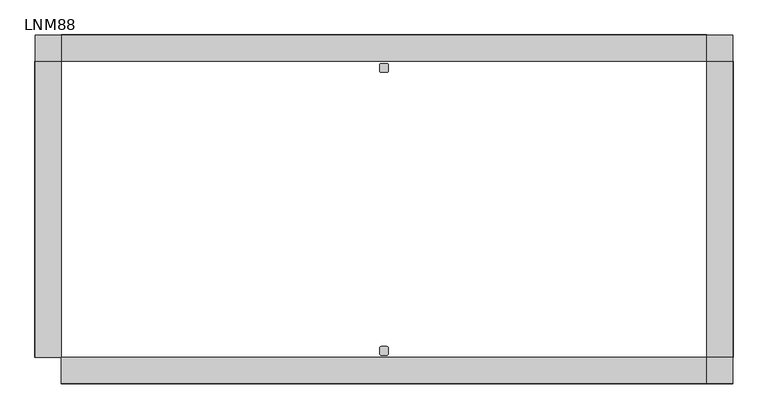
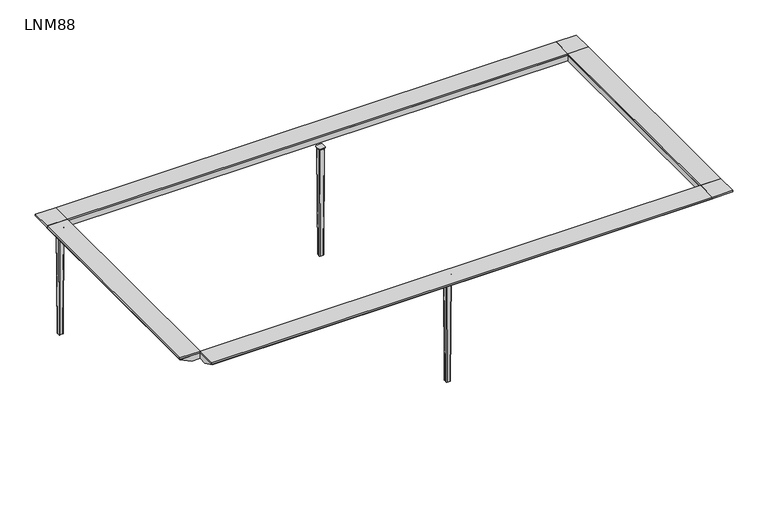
"""IFC4 building model written with IfcOpenShell, lengths in millimetres: furniture geometry, Operative Twin Desks : LNM88."""

from ifc_helpers import new_model, si_unit, point, frame, origin, place, context, project, spatial, polyline, circle_curve, ellipse_curve, trimmed, outline, extrude, faceted_brep, source, transform, mapped, element, save
from ifc_brep_helpers import plane_surface, cylinder_surface, revolved_surface, extruded_surface, advanced_brep


def lnm88_35c4ff98(model_context):
    return source(origin(), model_context, "Body", "SolidModel", [
        advanced_brep(
        [(12.0, -630.0, 675.0), (-12.0, -630.0, 675.0), (-20.0, -638.0, 675.0), (-20.0, -662.0, 675.0), (-12.0, -670.0, 675.0), (12.0, -670.0, 675.0), (20.0, -662.0, 675.0), (20.0, -638.0, 675.0), (15.0, -662.0, 665.0), (12.0, -665.0, 665.0), (-12.0, -665.0, 665.0), (-15.0, -662.0, 665.0), (-15.0, -638.0, 665.0), (-12.0, -635.0, 665.0), (12.0, -635.0, 665.0), (15.0, -638.0, 665.0), (12.0, -630.0, 672.0), (-12.0, -630.0, 672.0), (-20.0, -638.0, 672.0), (-20.0, -662.0, 672.0), (-12.0, -670.0, 672.0), (12.0, -670.0, 672.0), (20.0, -662.0, 672.0), (20.0, -638.0, 672.0)],
        [
            (0, 1),
            (1, 2, circle_curve(frame((-12.0, -638.0, 675.0), z_axis=(0.0, 0.0, 1.0), x_axis=(1.0, 0.0, 0.0)), 8.0)),
            (2, 3),
            (3, 4, circle_curve(frame((-12.0, -662.0, 675.0), z_axis=(0.0, 0.0, 1.0), x_axis=(1.0, 0.0, 0.0)), 8.0)),
            (4, 5),
            (5, 6, circle_curve(frame((12.0, -662.0, 675.0), z_axis=(0.0, 0.0, 1.0), x_axis=(1.0, 0.0, 0.0)), 8.0)),
            (6, 7),
            (7, 0, circle_curve(frame((12.0, -638.0, 675.0), z_axis=(0.0, 0.0, 1.0), x_axis=(1.0, 0.0, 0.0)), 8.0)),
            (8, 9, circle_curve(frame((12.0, -662.0, 665.0), z_axis=(0.0, 0.0, -1.0), x_axis=(1.0, 0.0, 0.0)), 3.0)),
            (9, 10),
            (10, 11, circle_curve(frame((-12.0, -662.0, 665.0), z_axis=(0.0, 0.0, -1.0), x_axis=(0.0, -1.0, 0.0)), 3.0)),
            (11, 12),
            (12, 13, circle_curve(frame((-12.0, -638.0, 665.0), z_axis=(0.0, 0.0, -1.0), x_axis=(-1.0, 0.0, 0.0)), 3.0)),
            (13, 14),
            (14, 15, circle_curve(frame((12.0, -638.0, 665.0), z_axis=(0.0, 0.0, -1.0), x_axis=(0.0, 1.0, 0.0)), 3.0)),
            (15, 8),
            (0, 16),
            (16, 17),
            (17, 1),
            (17, 18, circle_curve(frame((-12.0, -638.0, 672.0), z_axis=(0.0, 0.0, 1.0), x_axis=(1.0, 0.0, 0.0)), 8.0)),
            (18, 2),
            (18, 19),
            (19, 3),
            (19, 20, circle_curve(frame((-12.0, -662.0, 672.0), z_axis=(0.0, 0.0, 1.0), x_axis=(1.0, 0.0, 0.0)), 8.0)),
            (20, 4),
            (20, 21),
            (21, 5),
            (21, 22, circle_curve(frame((12.0, -662.0, 672.0), z_axis=(0.0, 0.0, 1.0), x_axis=(1.0, 0.0, 0.0)), 8.0)),
            (22, 6),
            (22, 23),
            (23, 7),
            (23, 16, circle_curve(frame((12.0, -638.0, 672.0), z_axis=(0.0, 0.0, 1.0), x_axis=(1.0, 0.0, 0.0)), 8.0)),
            (21, 9, circle_curve(frame((12.0, -673.9600528, 663.8856766), z_axis=(-1.0, 0.0, 0.0), x_axis=(0.0, -1.0, 0.0)), 9.0290787)),
            (8, 22, circle_curve(frame((23.9600528, -662.0, 663.8856766), z_axis=(0.0, 1.0, 0.0), x_axis=(1.0, 0.0, 0.0)), 9.0290787)),
            (20, 10, circle_curve(frame((-12.0, -673.9600528, 663.8856766), z_axis=(-1.0, 0.0, 0.0), x_axis=(0.0, -1.0, 0.0)), 9.0290787)),
            (19, 11, circle_curve(frame((-23.9600528, -662.0, 663.8856766), z_axis=(0.0, 1.0, 0.0), x_axis=(-1.0, 0.0, 0.0)), 9.0290787)),
            (18, 12, circle_curve(frame((-23.9600528, -638.0, 663.8856766), z_axis=(0.0, 1.0, 0.0), x_axis=(-1.0, 0.0, 0.0)), 9.0290787)),
            (17, 13, circle_curve(frame((-12.0, -626.0399472, 663.8856766), z_axis=(1.0, 0.0, 0.0), x_axis=(0.0, 1.0, 0.0)), 9.0290787)),
            (16, 14, circle_curve(frame((12.0, -626.0399472, 663.8856766), z_axis=(1.0, 0.0, 0.0), x_axis=(0.0, 1.0, 0.0)), 9.0290787)),
            (23, 15, circle_curve(frame((23.9600528, -638.0, 663.8856766), z_axis=(0.0, -1.0, 0.0), x_axis=(1.0, 0.0, 0.0)), 9.0290787)),
        ],
        [
            plane_surface(frame((-673.663284, -630.0, 675.0), z_axis=(0.0, 0.0, 1.0), x_axis=(-1.0, 0.0, 0.0))),
            plane_surface(frame((-673.663284, -630.0, 665.0), z_axis=(0.0, 0.0, -1.0), x_axis=(1.0, 0.0, 0.0))),
            plane_surface(frame((12.0, -630.0, 675.0), z_axis=(0.0, 1.0, 0.0), x_axis=(0.0, 0.0, -1.0))),
            cylinder_surface(frame((-12.0, -638.0, 665.0), z_axis=(0.0, 0.0, 1.0), x_axis=(1.0, 0.0, 0.0)), 8.0),
            plane_surface(frame((-20.0, -638.0, 675.0), z_axis=(-1.0, 0.0, 0.0), x_axis=(0.0, 0.0, -1.0))),
            cylinder_surface(frame((-12.0, -662.0, 665.0), z_axis=(0.0, 0.0, 1.0), x_axis=(1.0, 0.0, 0.0)), 8.0),
            plane_surface(frame((-12.0, -670.0, 675.0), z_axis=(0.0, -1.0, 0.0), x_axis=(0.0, 0.0, -1.0))),
            cylinder_surface(frame((12.0, -662.0, 665.0), z_axis=(0.0, 0.0, 1.0), x_axis=(1.0, 0.0, 0.0)), 8.0),
            plane_surface(frame((20.0, -662.0, 675.0), z_axis=(1.0, 0.0, 0.0), x_axis=(0.0, 0.0, -1.0))),
            cylinder_surface(frame((12.0, -638.0, 665.0), z_axis=(0.0, 0.0, 1.0), x_axis=(1.0, 0.0, 0.0)), 8.0),
            revolved_surface(trimmed(ellipse_curve(frame((23.9600528, -662.0, 663.8856766), z_axis=(0.0, -1.0, 0.0), x_axis=(1.0, 0.0, 0.0)), 9.0290787, 9.0290787), [point((20.0, -662.0, 672.0))], [point((15.0, -662.0, 665.0))], True, "CARTESIAN"), (12.0, -662.0, 0.0), (0.0, 0.0, -1.0)),
            revolved_surface(polyline([(12.0, -682.9891315, 663.8856766), (-12.0, -682.9891315, 663.8856766)]), (12.0, -673.9600528, 663.8856766), (1.0, 0.0, 0.0)),
            revolved_surface(trimmed(ellipse_curve(frame((-12.0, -673.9600528, 663.8856766), z_axis=(-1.0, 0.0, 0.0), x_axis=(0.0, -1.0, 0.0)), 9.0290787, 9.0290787), [point((-12.0, -670.0, 672.0))], [point((-12.0, -665.0, 665.0))], True, "CARTESIAN"), (-12.0, -662.0, 0.0), (0.0, 0.0, -1.0)),
            revolved_surface(polyline([(-32.9891315, -662.0, 663.8856766), (-32.9891315, -638.0, 663.8856766)]), (-23.9600528, -662.0, 663.8856766), (0.0, -1.0, 0.0)),
            revolved_surface(trimmed(ellipse_curve(frame((-23.9600528, -638.0, 663.8856766), z_axis=(0.0, 1.0, 0.0), x_axis=(-1.0, 0.0, 0.0)), 9.0290787, 9.0290787), [point((-20.0, -638.0, 672.0))], [point((-15.0, -638.0, 665.0))], True, "CARTESIAN"), (-12.0, -638.0, 0.0), (0.0, 0.0, -1.0)),
            revolved_surface(polyline([(-12.0, -617.0108685, 663.8856766), (12.0, -617.0108685, 663.8856766)]), (-12.0, -626.0399472, 663.8856766), (-1.0, 0.0, 0.0)),
            revolved_surface(trimmed(ellipse_curve(frame((12.0, -626.0399472, 663.8856766), z_axis=(1.0, 0.0, 0.0), x_axis=(0.0, 1.0, 0.0)), 9.0290787, 9.0290787), [point((12.0, -630.0, 672.0))], [point((12.0, -635.0, 665.0))], True, "CARTESIAN"), (12.0, -638.0, 0.0), (0.0, 0.0, -1.0)),
            revolved_surface(polyline([(32.9891315, -638.0, 663.8856766), (32.9891315, -662.0, 663.8856766)]), (23.9600528, -638.0, 663.8856766), (0.0, 1.0, 0.0)),
        ],
        [
            (0, [[1, 2, 3, 4, 5, 6, 7, 8]]),
            (1, [[9, 10, 11, 12, 13, 14, 15, 16]]),
            (2, [[-1, 17, 18, 19]]),
            (3, [[-2, -19, 20, 21]]),
            (4, [[-3, -21, 22, 23]]),
            (5, [[-4, -23, 24, 25]]),
            (6, [[-5, -25, 26, 27]]),
            (7, [[-6, -27, 28, 29]]),
            (8, [[-7, -29, 30, 31]]),
            (9, [[-8, -31, 32, -17]]),
            (10, [[33, -9, 34, -28]]),
            (11, [[-33, -26, 35, -10]]),
            (12, [[-35, -24, 36, -11]]),
            (13, [[-36, -22, 37, -12]]),
            (14, [[-37, -20, 38, -13]]),
            (15, [[-38, -18, 39, -14]]),
            (16, [[-39, -32, 40, -15]]),
            (17, [[-34, -16, -40, -30]]),
        ],
    ),
        advanced_brep(
        [(-15.0, -662.0, 665.0), (-12.0, -665.0, 665.0), (12.0, -665.0, 665.0), (15.0, -662.0, 665.0), (15.0, -638.0, 665.0), (12.0, -635.0, 665.0), (-12.0, -635.0, 665.0), (-15.0, -638.0, 665.0), (-12.0, -659.0, 0.0), (-12.0, -641.0, 0.0), (-9.0, -638.0, 0.0), (9.0, -638.0, 0.0), (12.0, -641.0, 0.0), (12.0, -659.0, 0.0), (9.0, -662.0, 0.0), (-9.0, -662.0, 0.0)],
        [
            (0, 1, circle_curve(frame((-12.0, -662.0, 665.0), z_axis=(0.0, 0.0, 1.0), x_axis=(1.0, 0.0, 0.0)), 3.0)),
            (1, 2),
            (2, 3, circle_curve(frame((12.0, -662.0, 665.0), z_axis=(0.0, 0.0, 1.0), x_axis=(1.0, 0.0, 0.0)), 3.0)),
            (3, 4),
            (4, 5, circle_curve(frame((12.0, -638.0, 665.0), z_axis=(0.0, 0.0, 1.0), x_axis=(1.0, 0.0, 0.0)), 3.0)),
            (5, 6),
            (6, 7, circle_curve(frame((-12.0, -638.0, 665.0), z_axis=(0.0, 0.0, 1.0), x_axis=(1.0, 0.0, 0.0)), 3.0)),
            (7, 0),
            (8, 9),
            (9, 10, circle_curve(frame((-9.0, -641.0, 0.0), z_axis=(0.0, 0.0, -1.0), x_axis=(1.0, 0.0, 0.0)), 3.0)),
            (10, 11),
            (11, 12, circle_curve(frame((9.0, -641.0, 0.0), z_axis=(0.0, 0.0, -1.0), x_axis=(1.0, 0.0, 0.0)), 3.0)),
            (12, 13),
            (13, 14, circle_curve(frame((9.0, -659.0, 0.0), z_axis=(0.0, 0.0, -1.0), x_axis=(1.0, 0.0, 0.0)), 3.0)),
            (14, 15),
            (15, 8, circle_curve(frame((-9.0, -659.0, 0.0), z_axis=(0.0, 0.0, -1.0), x_axis=(1.0, 0.0, 0.0)), 3.0)),
            (15, 1),
            (0, 8),
            (14, 2),
            (13, 3),
            (12, 4),
            (11, 5),
            (10, 6),
            (9, 7),
        ],
        [
            plane_surface(frame((0.0, -650.0, 665.0), z_axis=(0.0, 0.0, 1.0), x_axis=(-1.0, 0.0, 0.0))),
            plane_surface(frame((0.0, -650.0, 0.0), z_axis=(0.0, 0.0, -1.0), x_axis=(-1.0, 0.0, 0.0))),
            extruded_surface(trimmed(circle_curve(frame((-9.0, -659.0, 0.0), z_axis=(0.0, 0.0, 1.0), x_axis=(1.0, 0.0, 0.0)), 3.0), [point((-12.0, -659.0, 0.0))], [point((-9.0, -662.0, 0.0))], True, "CARTESIAN"), (-3.0, -3.0, 665.0), 665.0135336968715),
            plane_surface(frame((0.0, -662.0, 0.0), z_axis=(0.0, -0.9999898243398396, -0.004511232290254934), x_axis=(1.0, 0.0, 0.0))),
            extruded_surface(trimmed(circle_curve(frame((9.0, -659.0, 0.0), z_axis=(0.0, 0.0, 1.0), x_axis=(1.0, 0.0, 0.0)), 3.0), [point((9.0, -662.0, 0.0))], [point((12.0, -659.0, 0.0))], True, "CARTESIAN"), (3.0, -3.0, 665.0), 665.0135336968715),
            plane_surface(frame((12.0, -650.0, 0.0), z_axis=(0.9999898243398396, 0.0, -0.004511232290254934), x_axis=(0.0, 1.0, 0.0))),
            extruded_surface(trimmed(circle_curve(frame((9.0, -641.0, 0.0), z_axis=(0.0, 0.0, 1.0), x_axis=(1.0, 0.0, 0.0)), 3.0), [point((12.0, -641.0, 0.0))], [point((9.0, -638.0, 0.0))], True, "CARTESIAN"), (3.0, 3.0, 665.0), 665.0135336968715),
            plane_surface(frame((0.0, -638.0, 0.0), z_axis=(0.0, 0.9999898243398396, -0.004511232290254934), x_axis=(-1.0, 0.0, 0.0))),
            extruded_surface(trimmed(circle_curve(frame((-9.0, -641.0, 0.0), z_axis=(0.0, 0.0, 1.0), x_axis=(1.0, 0.0, 0.0)), 3.0), [point((-9.0, -638.0, 0.0))], [point((-12.0, -641.0, 0.0))], True, "CARTESIAN"), (-3.0, 3.0, 665.0), 665.0135336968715),
            plane_surface(frame((-12.0, -650.0, 0.0), z_axis=(-0.9999898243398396, 0.0, -0.004511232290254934), x_axis=(0.0, -1.0, 0.0))),
        ],
        [
            (0, [[1, 2, 3, 4, 5, 6, 7, 8]]),
            (1, [[9, 10, 11, 12, 13, 14, 15, 16]]),
            (2, [[-16, 17, -1, 18]]),
            (3, [[-15, 19, -2, -17]]),
            (4, [[-14, 20, -3, -19]]),
            (5, [[-13, 21, -4, -20]]),
            (6, [[-12, 22, -5, -21]]),
            (7, [[-11, 23, -6, -22]]),
            (8, [[-10, 24, -7, -23]]),
            (9, [[-9, -18, -8, -24]]),
        ],
    ),
        advanced_brep(
        [(12.0, 670.0, 675.0), (-12.0, 670.0, 675.0), (-20.0, 662.0, 675.0), (-20.0, 638.0, 675.0), (-12.0, 630.0, 675.0), (12.0, 630.0, 675.0), (20.0, 638.0, 675.0), (20.0, 662.0, 675.0), (15.0, 638.0, 665.0), (12.0, 635.0, 665.0), (-12.0, 635.0, 665.0), (-15.0, 638.0, 665.0), (-15.0, 662.0, 665.0), (-12.0, 665.0, 665.0), (12.0, 665.0, 665.0), (15.0, 662.0, 665.0), (12.0, 670.0, 672.0), (-12.0, 670.0, 672.0), (-20.0, 662.0, 672.0), (-20.0, 638.0, 672.0), (-12.0, 630.0, 672.0), (12.0, 630.0, 672.0), (20.0, 638.0, 672.0), (20.0, 662.0, 672.0)],
        [
            (0, 1),
            (1, 2, circle_curve(frame((-12.0, 662.0, 675.0), z_axis=(0.0, 0.0, 1.0), x_axis=(1.0, 0.0, 0.0)), 8.0)),
            (2, 3),
            (3, 4, circle_curve(frame((-12.0, 638.0, 675.0), z_axis=(0.0, 0.0, 1.0), x_axis=(1.0, 0.0, 0.0)), 8.0)),
            (4, 5),
            (5, 6, circle_curve(frame((12.0, 638.0, 675.0), z_axis=(0.0, 0.0, 1.0), x_axis=(1.0, 0.0, 0.0)), 8.0)),
            (6, 7),
            (7, 0, circle_curve(frame((12.0, 662.0, 675.0), z_axis=(0.0, 0.0, 1.0), x_axis=(1.0, 0.0, 0.0)), 8.0)),
            (8, 9, circle_curve(frame((12.0, 638.0, 665.0), z_axis=(0.0, 0.0, -1.0), x_axis=(1.0, 0.0, 0.0)), 3.0)),
            (9, 10),
            (10, 11, circle_curve(frame((-12.0, 638.0, 665.0), z_axis=(0.0, 0.0, -1.0), x_axis=(0.0, -1.0, 0.0)), 3.0)),
            (11, 12),
            (12, 13, circle_curve(frame((-12.0, 662.0, 665.0), z_axis=(0.0, 0.0, -1.0), x_axis=(-1.0, 0.0, 0.0)), 3.0)),
            (13, 14),
            (14, 15, circle_curve(frame((12.0, 662.0, 665.0), z_axis=(0.0, 0.0, -1.0), x_axis=(0.0, 1.0, 0.0)), 3.0)),
            (15, 8),
            (0, 16),
            (16, 17),
            (17, 1),
            (17, 18, circle_curve(frame((-12.0, 662.0, 672.0), z_axis=(0.0, 0.0, 1.0), x_axis=(1.0, 0.0, 0.0)), 8.0)),
            (18, 2),
            (18, 19),
            (19, 3),
            (19, 20, circle_curve(frame((-12.0, 638.0, 672.0), z_axis=(0.0, 0.0, 1.0), x_axis=(1.0, 0.0, 0.0)), 8.0)),
            (20, 4),
            (20, 21),
            (21, 5),
            (21, 22, circle_curve(frame((12.0, 638.0, 672.0), z_axis=(0.0, 0.0, 1.0), x_axis=(1.0, 0.0, 0.0)), 8.0)),
            (22, 6),
            (22, 23),
            (23, 7),
            (23, 16, circle_curve(frame((12.0, 662.0, 672.0), z_axis=(0.0, 0.0, 1.0), x_axis=(1.0, 0.0, 0.0)), 8.0)),
            (21, 9, circle_curve(frame((12.0, 626.0399472, 663.8856766), z_axis=(-1.0, 0.0, 0.0), x_axis=(0.0, -1.0, 0.0)), 9.0290787)),
            (8, 22, circle_curve(frame((23.9600528, 638.0, 663.8856766), z_axis=(0.0, 1.0, 0.0), x_axis=(1.0, 0.0, 0.0)), 9.0290787)),
            (20, 10, circle_curve(frame((-12.0, 626.0399472, 663.8856766), z_axis=(-1.0, 0.0, 0.0), x_axis=(0.0, -1.0, 0.0)), 9.0290787)),
            (19, 11, circle_curve(frame((-23.9600528, 638.0, 663.8856766), z_axis=(0.0, 1.0, 0.0), x_axis=(-1.0, 0.0, 0.0)), 9.0290787)),
            (18, 12, circle_curve(frame((-23.9600528, 662.0, 663.8856766), z_axis=(0.0, 1.0, 0.0), x_axis=(-1.0, 0.0, 0.0)), 9.0290787)),
            (17, 13, circle_curve(frame((-12.0, 673.9600528, 663.8856766), z_axis=(1.0, 0.0, 0.0), x_axis=(0.0, 1.0, 0.0)), 9.0290787)),
            (16, 14, circle_curve(frame((12.0, 673.9600528, 663.8856766), z_axis=(1.0, 0.0, 0.0), x_axis=(0.0, 1.0, 0.0)), 9.0290787)),
            (23, 15, circle_curve(frame((23.9600528, 662.0, 663.8856766), z_axis=(0.0, -1.0, 0.0), x_axis=(1.0, 0.0, 0.0)), 9.0290787)),
        ],
        [
            plane_surface(frame((-673.663284, 670.0, 675.0), z_axis=(0.0, 0.0, 1.0), x_axis=(-1.0, 0.0, 0.0))),
            plane_surface(frame((-673.663284, 670.0, 665.0), z_axis=(0.0, 0.0, -1.0), x_axis=(1.0, 0.0, 0.0))),
            plane_surface(frame((12.0, 670.0, 675.0), z_axis=(0.0, 1.0, 0.0), x_axis=(0.0, 0.0, -1.0))),
            cylinder_surface(frame((-12.0, 662.0, 665.0), z_axis=(0.0, 0.0, 1.0), x_axis=(1.0, 0.0, 0.0)), 8.0),
            plane_surface(frame((-20.0, 662.0, 675.0), z_axis=(-1.0, 0.0, 0.0), x_axis=(0.0, 0.0, -1.0))),
            cylinder_surface(frame((-12.0, 638.0, 665.0), z_axis=(0.0, 0.0, 1.0), x_axis=(1.0, 0.0, 0.0)), 8.0),
            plane_surface(frame((-12.0, 630.0, 675.0), z_axis=(0.0, -1.0, 0.0), x_axis=(0.0, 0.0, -1.0))),
            cylinder_surface(frame((12.0, 638.0, 665.0), z_axis=(0.0, 0.0, 1.0), x_axis=(1.0, 0.0, 0.0)), 8.0),
            plane_surface(frame((20.0, 638.0, 675.0), z_axis=(1.0, 0.0, 0.0), x_axis=(0.0, 0.0, -1.0))),
            cylinder_surface(frame((12.0, 662.0, 665.0), z_axis=(0.0, 0.0, 1.0), x_axis=(1.0, 0.0, 0.0)), 8.0),
            revolved_surface(trimmed(ellipse_curve(frame((23.9600528, 638.0, 663.8856766), z_axis=(0.0, -1.0, 0.0), x_axis=(1.0, 0.0, 0.0)), 9.0290787, 9.0290787), [point((20.0, 638.0, 672.0))], [point((15.0, 638.0, 665.0))], True, "CARTESIAN"), (12.0, 638.0, 0.0), (0.0, 0.0, -1.0)),
            revolved_surface(polyline([(12.0, 617.0108685, 663.8856766), (-12.0, 617.0108685, 663.8856766)]), (12.0, 626.0399472, 663.8856766), (1.0, 0.0, 0.0)),
            revolved_surface(trimmed(ellipse_curve(frame((-12.0, 626.0399472, 663.8856766), z_axis=(-1.0, 0.0, 0.0), x_axis=(0.0, -1.0, 0.0)), 9.0290787, 9.0290787), [point((-12.0, 630.0, 672.0))], [point((-12.0, 635.0, 665.0))], True, "CARTESIAN"), (-12.0, 638.0, 0.0), (0.0, 0.0, -1.0)),
            revolved_surface(polyline([(-32.9891315, 638.0, 663.8856766), (-32.9891315, 662.0, 663.8856766)]), (-23.9600528, 638.0, 663.8856766), (0.0, -1.0, 0.0)),
            revolved_surface(trimmed(ellipse_curve(frame((-23.9600528, 662.0, 663.8856766), z_axis=(0.0, 1.0, 0.0), x_axis=(-1.0, 0.0, 0.0)), 9.0290787, 9.0290787), [point((-20.0, 662.0, 672.0))], [point((-15.0, 662.0, 665.0))], True, "CARTESIAN"), (-12.0, 662.0, 0.0), (0.0, 0.0, -1.0)),
            revolved_surface(polyline([(-12.0, 682.9891315, 663.8856766), (12.0, 682.9891315, 663.8856766)]), (-12.0, 673.9600528, 663.8856766), (-1.0, 0.0, 0.0)),
            revolved_surface(trimmed(ellipse_curve(frame((12.0, 673.9600528, 663.8856766), z_axis=(1.0, 0.0, 0.0), x_axis=(0.0, 1.0, 0.0)), 9.0290787, 9.0290787), [point((12.0, 670.0, 672.0))], [point((12.0, 665.0, 665.0))], True, "CARTESIAN"), (12.0, 662.0, 0.0), (0.0, 0.0, -1.0)),
            revolved_surface(polyline([(32.9891315, 662.0, 663.8856766), (32.9891315, 638.0, 663.8856766)]), (23.9600528, 662.0, 663.8856766), (0.0, 1.0, 0.0)),
        ],
        [
            (0, [[1, 2, 3, 4, 5, 6, 7, 8]]),
            (1, [[9, 10, 11, 12, 13, 14, 15, 16]]),
            (2, [[-1, 17, 18, 19]]),
            (3, [[-2, -19, 20, 21]]),
            (4, [[-3, -21, 22, 23]]),
            (5, [[-4, -23, 24, 25]]),
            (6, [[-5, -25, 26, 27]]),
            (7, [[-6, -27, 28, 29]]),
            (8, [[-7, -29, 30, 31]]),
            (9, [[-8, -31, 32, -17]]),
            (10, [[33, -9, 34, -28]]),
            (11, [[-33, -26, 35, -10]]),
            (12, [[-35, -24, 36, -11]]),
            (13, [[-36, -22, 37, -12]]),
            (14, [[-37, -20, 38, -13]]),
            (15, [[-38, -18, 39, -14]]),
            (16, [[-39, -32, 40, -15]]),
            (17, [[-34, -16, -40, -30]]),
        ],
    ),
        advanced_brep(
        [(-15.0, 638.0, 665.0), (-12.0, 635.0, 665.0), (12.0, 635.0, 665.0), (15.0, 638.0, 665.0), (15.0, 662.0, 665.0), (12.0, 665.0, 665.0), (-12.0, 665.0, 665.0), (-15.0, 662.0, 665.0), (-12.0, 641.0, 0.0), (-12.0, 659.0, 0.0), (-9.0, 662.0, 0.0), (9.0, 662.0, 0.0), (12.0, 659.0, 0.0), (12.0, 641.0, 0.0), (9.0, 638.0, 0.0), (-9.0, 638.0, 0.0)],
        [
            (0, 1, circle_curve(frame((-12.0, 638.0, 665.0), z_axis=(0.0, 0.0, 1.0), x_axis=(1.0, 0.0, 0.0)), 3.0)),
            (1, 2),
            (2, 3, circle_curve(frame((12.0, 638.0, 665.0), z_axis=(0.0, 0.0, 1.0), x_axis=(1.0, 0.0, 0.0)), 3.0)),
            (3, 4),
            (4, 5, circle_curve(frame((12.0, 662.0, 665.0), z_axis=(0.0, 0.0, 1.0), x_axis=(1.0, 0.0, 0.0)), 3.0)),
            (5, 6),
            (6, 7, circle_curve(frame((-12.0, 662.0, 665.0), z_axis=(0.0, 0.0, 1.0), x_axis=(1.0, 0.0, 0.0)), 3.0)),
            (7, 0),
            (8, 9),
            (9, 10, circle_curve(frame((-9.0, 659.0, 0.0), z_axis=(0.0, 0.0, -1.0), x_axis=(1.0, 0.0, 0.0)), 3.0)),
            (10, 11),
            (11, 12, circle_curve(frame((9.0, 659.0, 0.0), z_axis=(0.0, 0.0, -1.0), x_axis=(1.0, 0.0, 0.0)), 3.0)),
            (12, 13),
            (13, 14, circle_curve(frame((9.0, 641.0, 0.0), z_axis=(0.0, 0.0, -1.0), x_axis=(1.0, 0.0, 0.0)), 3.0)),
            (14, 15),
            (15, 8, circle_curve(frame((-9.0, 641.0, 0.0), z_axis=(0.0, 0.0, -1.0), x_axis=(1.0, 0.0, 0.0)), 3.0)),
            (15, 1),
            (0, 8),
            (14, 2),
            (13, 3),
            (12, 4),
            (11, 5),
            (10, 6),
            (9, 7),
        ],
        [
            plane_surface(frame((0.0, 650.0, 665.0), z_axis=(0.0, 0.0, 1.0), x_axis=(-1.0, 0.0, 0.0))),
            plane_surface(frame((0.0, 650.0, 0.0), z_axis=(0.0, 0.0, -1.0), x_axis=(-1.0, 0.0, 0.0))),
            extruded_surface(trimmed(circle_curve(frame((-9.0, 641.0, 0.0), z_axis=(0.0, 0.0, 1.0), x_axis=(1.0, 0.0, 0.0)), 3.0), [point((-12.0, 641.0, 0.0))], [point((-9.0, 638.0, 0.0))], True, "CARTESIAN"), (-3.0, -3.0, 665.0), 665.0135336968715),
            plane_surface(frame((0.0, 638.0, 0.0), z_axis=(0.0, -0.9999898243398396, -0.004511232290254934), x_axis=(1.0, 0.0, 0.0))),
            extruded_surface(trimmed(circle_curve(frame((9.0, 641.0, 0.0), z_axis=(0.0, 0.0, 1.0), x_axis=(1.0, 0.0, 0.0)), 3.0), [point((9.0, 638.0, 0.0))], [point((12.0, 641.0, 0.0))], True, "CARTESIAN"), (3.0, -3.0, 665.0), 665.0135336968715),
            plane_surface(frame((12.0, 650.0, 0.0), z_axis=(0.9999898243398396, 0.0, -0.004511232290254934), x_axis=(0.0, 1.0, 0.0))),
            extruded_surface(trimmed(circle_curve(frame((9.0, 659.0, 0.0), z_axis=(0.0, 0.0, 1.0), x_axis=(1.0, 0.0, 0.0)), 3.0), [point((12.0, 659.0, 0.0))], [point((9.0, 662.0, 0.0))], True, "CARTESIAN"), (3.0, 3.0, 665.0), 665.0135336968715),
            plane_surface(frame((0.0, 662.0, 0.0), z_axis=(0.0, 0.9999898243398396, -0.004511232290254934), x_axis=(-1.0, 0.0, 0.0))),
            extruded_surface(trimmed(circle_curve(frame((-9.0, 659.0, 0.0), z_axis=(0.0, 0.0, 1.0), x_axis=(1.0, 0.0, 0.0)), 3.0), [point((-9.0, 662.0, 0.0))], [point((-12.0, 659.0, 0.0))], True, "CARTESIAN"), (-3.0, 3.0, 665.0), 665.0135336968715),
            plane_surface(frame((-12.0, 650.0, 0.0), z_axis=(-0.9999898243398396, 0.0, -0.004511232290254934), x_axis=(0.0, -1.0, 0.0))),
        ],
        [
            (0, [[1, 2, 3, 4, 5, 6, 7, 8]]),
            (1, [[9, 10, 11, 12, 13, 14, 15, 16]]),
            (2, [[-16, 17, -1, 18]]),
            (3, [[-15, 19, -2, -17]]),
            (4, [[-14, 20, -3, -19]]),
            (5, [[-13, 21, -4, -20]]),
            (6, [[-12, 22, -5, -21]]),
            (7, [[-11, 23, -6, -22]]),
            (8, [[-10, 24, -7, -23]]),
            (9, [[-9, -18, -8, -24]]),
        ],
    ),
        extrude(outline(polyline([(1600.0, -680.0), (1600.0, -800.0), (1480.0, -800.0), (1480.0, -680.0), (1600.0, -680.0)])), frame((0.0, 0.0, 710.0), z_axis=(0.0, 0.0, 1.0), x_axis=(1.0, 0.0, 0.0)), (0.0, 0.0, 1.0), 10.0),
        extrude(outline(polyline([(1600.0, 800.0), (1600.0, 680.0), (1480.0, 680.0), (1480.0, 800.0), (1600.0, 800.0)])), frame((0.0, 0.0, 710.0), z_axis=(0.0, 0.0, 1.0), x_axis=(1.0, 0.0, 0.0)), (0.0, 0.0, 1.0), 10.0),
        extrude(outline(polyline([(-1480.0, 800.0), (-1480.0, 680.0), (-1600.0, 680.0), (-1600.0, 800.0), (-1480.0, 800.0)])), frame((0.0, 0.0, 710.0), z_axis=(0.0, 0.0, 1.0), x_axis=(1.0, 0.0, 0.0)), (0.0, 0.0, 1.0), 10.0),
        extrude(outline(polyline([(-1600.0, 680.0), (-1480.0, 680.0), (-1480.0, -680.0), (-1600.0, -680.0), (-1600.0, 680.0)])), frame((0.0, 0.0, 710.0), z_axis=(0.0, 0.0, 1.0), x_axis=(1.0, 0.0, 0.0)), (0.0, 0.0, 1.0), 10.0),
        extrude(outline(polyline([(1480.0, 680.0), (1600.0, 680.0), (1600.0, -680.0), (1480.0, -680.0), (1480.0, 680.0)])), frame((0.0, 0.0, 710.0), z_axis=(0.0, 0.0, 1.0), x_axis=(1.0, 0.0, 0.0)), (0.0, 0.0, 1.0), 10.0),
        extrude(outline(polyline([(1480.0, -680.0), (1480.0, -800.0), (-1480.0, -800.0), (-1480.0, -680.0), (1480.0, -680.0)])), frame((0.0, 0.0, 710.0), z_axis=(0.0, 0.0, 1.0), x_axis=(1.0, 0.0, 0.0)), (0.0, 0.0, 1.0), 10.0),
        extrude(outline(polyline([(1480.0, 800.0), (1480.0, 680.0), (-1480.0, 680.0), (-1480.0, 800.0), (1480.0, 800.0)])), frame((0.0, 0.0, 710.0), z_axis=(0.0, 0.0, 1.0), x_axis=(1.0, 0.0, 0.0)), (0.0, 0.0, 1.0), 10.0),
        extrude(outline(polyline([(710.0, 1480.0), (675.0, 1480.0), (675.0, 1528.7129935), (710.0, 1601.7129935), (710.0, 1480.0)])), frame((0.0, -680.0, 0.0), z_axis=(0.0, 1.0, 0.0), x_axis=(0.0, 0.0, 1.0)), (0.0, 0.0, 1.0), 1360.0),
        extrude(outline(polyline([(710.0, -1480.0), (710.0, -1601.7129935), (675.0, -1528.7129935), (675.0, -1480.0), (710.0, -1480.0)])), frame((0.0, -680.0, 0.0), z_axis=(0.0, 1.0, 0.0), x_axis=(0.0, 0.0, 1.0)), (0.0, 0.0, 1.0), 1360.0),
        extrude(outline(polyline([(680.0, 710.0), (801.7129935, 710.0), (728.7129935, 675.0), (680.0, 675.0), (680.0, 710.0)])), frame((-1480.0, 0.0, 0.0), z_axis=(1.0, 0.0, 0.0), x_axis=(0.0, 1.0, 0.0)), (0.0, 0.0, 1.0), 2960.0),
        extrude(outline(polyline([(-680.0, 710.0), (-680.0, 675.0), (-728.7129935, 675.0), (-801.7129935, 710.0), (-680.0, 710.0)])), frame((-1480.0, 0.0, 0.0), z_axis=(1.0, 0.0, 0.0), x_axis=(0.0, 1.0, 0.0)), (0.0, 0.0, 1.0), 2960.0),
        faceted_brep([(-1480.0, 680.0, 710.0), (-1480.0, 800.0, 710.0), (-1600.0, 800.0, 710.0), (-1600.0, 680.0, 710.0), (-1480.0, 680.0, 675.0), (-1527.0, 680.0, 675.0), (-1527.0, 727.0, 675.0), (-1480.0, 727.0, 675.0)], [[[0, 1, 2, 3]], [[4, 5, 6, 7]], [[1, 0, 4, 7]], [[0, 3, 5, 4]], [[6, 2, 1, 7]], [[2, 6, 5, 3]]]),
        advanced_brep(
        [(-1487.0, 695.0, 675.0), (-1487.0, 719.0, 675.0), (-1495.0, 727.0, 675.0), (-1519.0, 727.0, 675.0), (-1527.0, 719.0, 675.0), (-1527.0, 695.0, 675.0), (-1519.0, 687.0, 675.0), (-1495.0, 687.0, 675.0), (-1519.0, 692.0, 665.0), (-1522.0, 695.0, 665.0), (-1522.0, 719.0, 665.0), (-1519.0, 722.0, 665.0), (-1495.0, 722.0, 665.0), (-1492.0, 719.0, 665.0), (-1492.0, 695.0, 665.0), (-1495.0, 692.0, 665.0), (-1487.0, 695.0, 672.0), (-1487.0, 719.0, 672.0), (-1495.0, 727.0, 672.0), (-1519.0, 727.0, 672.0), (-1527.0, 719.0, 672.0), (-1527.0, 695.0, 672.0), (-1519.0, 687.0, 672.0), (-1495.0, 687.0, 672.0)],
        [
            (0, 1),
            (1, 2, circle_curve(frame((-1495.0, 719.0, 675.0), z_axis=(0.0, 0.0, 1.0), x_axis=(0.0, -1.0000000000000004, 0.0)), 8.0)),
            (2, 3),
            (3, 4, circle_curve(frame((-1519.0, 719.0, 675.0), z_axis=(0.0, 0.0, 1.0), x_axis=(0.0, -1.0000000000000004, 0.0)), 8.0)),
            (4, 5),
            (5, 6, circle_curve(frame((-1519.0, 695.0, 675.0), z_axis=(0.0, 0.0, 1.0), x_axis=(0.0, -1.0000000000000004, 0.0)), 8.0)),
            (6, 7),
            (7, 0, circle_curve(frame((-1495.0, 695.0, 675.0), z_axis=(0.0, 0.0, 1.0), x_axis=(0.0, -1.0000000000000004, 0.0)), 8.0)),
            (8, 9, circle_curve(frame((-1519.0, 695.0, 665.0), z_axis=(0.0, 0.0, -1.0), x_axis=(0.0, -1.0000000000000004, 0.0)), 3.0)),
            (9, 10),
            (10, 11, circle_curve(frame((-1519.0, 719.0, 665.0), z_axis=(0.0, 0.0, -1.0), x_axis=(-1.0000000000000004, 0.0, 0.0)), 3.0)),
            (11, 12),
            (12, 13, circle_curve(frame((-1495.0, 719.0, 665.0), z_axis=(0.0, 0.0, -1.0), x_axis=(0.0, 1.0000000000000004, 0.0)), 3.0)),
            (13, 14),
            (14, 15, circle_curve(frame((-1495.0, 695.0, 665.0), z_axis=(0.0, 0.0, -1.0), x_axis=(1.0000000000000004, 0.0, 0.0)), 3.0)),
            (15, 8),
            (0, 16),
            (16, 17),
            (17, 1),
            (17, 18, circle_curve(frame((-1495.0, 719.0, 672.0), z_axis=(0.0, 0.0, 1.0), x_axis=(0.0, -1.0000000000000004, 0.0)), 8.0)),
            (18, 2),
            (18, 19),
            (19, 3),
            (19, 20, circle_curve(frame((-1519.0, 719.0, 672.0), z_axis=(0.0, 0.0, 1.0), x_axis=(0.0, -1.0000000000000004, 0.0)), 8.0)),
            (20, 4),
            (20, 21),
            (21, 5),
            (21, 22, circle_curve(frame((-1519.0, 695.0, 672.0), z_axis=(0.0, 0.0, 1.0), x_axis=(0.0, -1.0000000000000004, 0.0)), 8.0)),
            (22, 6),
            (22, 23),
            (23, 7),
            (23, 16, circle_curve(frame((-1495.0, 695.0, 672.0), z_axis=(0.0, 0.0, 1.0), x_axis=(0.0, -1.0000000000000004, 0.0)), 8.0)),
            (21, 9, circle_curve(frame((-1530.9600528, 695.0, 663.8856766), z_axis=(0.0, 1.0000000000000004, 0.0), x_axis=(-1.0000000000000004, 0.0, 0.0)), 9.0290787)),
            (8, 22, circle_curve(frame((-1519.0, 683.0399472, 663.8856766), z_axis=(1.0000000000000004, 0.0, 0.0), x_axis=(0.0, -1.0000000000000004, 0.0)), 9.0290787)),
            (20, 10, circle_curve(frame((-1530.9600528, 719.0, 663.8856766), z_axis=(0.0, 1.0, 0.0), x_axis=(-1.0000000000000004, 0.0, 0.0)), 9.0290787)),
            (19, 11, circle_curve(frame((-1519.0, 730.9600528, 663.8856766), z_axis=(1.0000000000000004, 0.0, 0.0), x_axis=(0.0, 1.0000000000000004, 0.0)), 9.0290787)),
            (18, 12, circle_curve(frame((-1495.0, 730.9600528, 663.8856766), z_axis=(1.0, 0.0, 0.0), x_axis=(0.0, 1.0000000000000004, 0.0)), 9.0290787)),
            (17, 13, circle_curve(frame((-1483.0399472, 719.0, 663.8856766), z_axis=(0.0, -1.0000000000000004, 0.0), x_axis=(1.0000000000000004, 0.0, 0.0)), 9.0290787)),
            (16, 14, circle_curve(frame((-1483.0399472, 695.0, 663.8856766), z_axis=(0.0, -1.0, 0.0), x_axis=(1.0000000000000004, 0.0, 0.0)), 9.0290787)),
            (23, 15, circle_curve(frame((-1495.0, 683.0399472, 663.8856766), z_axis=(-1.0000000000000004, 0.0, 0.0), x_axis=(0.0, -1.0000000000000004, 0.0)), 9.0290787)),
        ],
        [
            plane_surface(frame((-1487.0, 1380.663284, 675.0), z_axis=(0.0, 0.0, 1.0), x_axis=(0.0, 1.0, 0.0))),
            plane_surface(frame((-1487.0, 1380.663284, 665.0), z_axis=(0.0, 0.0, -1.0), x_axis=(0.0, -1.0, 0.0))),
            plane_surface(frame((-1487.0, 695.0, 675.0), z_axis=(1.0, 0.0, 0.0), x_axis=(0.0, 0.0, -1.0))),
            cylinder_surface(frame((-1495.0, 719.0, 665.0), z_axis=(0.0, 0.0, 1.0), x_axis=(0.0, -1.0000000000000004, 0.0)), 8.0),
            plane_surface(frame((-1495.0, 727.0, 675.0), z_axis=(0.0, 1.0, 0.0), x_axis=(0.0, 0.0, -1.0))),
            cylinder_surface(frame((-1519.0, 719.0, 665.0), z_axis=(0.0, 0.0, 1.0), x_axis=(0.0, -1.0000000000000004, 0.0)), 8.0),
            plane_surface(frame((-1527.0, 719.0, 675.0), z_axis=(-1.0, 0.0, 0.0), x_axis=(0.0, 0.0, -1.0))),
            cylinder_surface(frame((-1519.0, 695.0, 665.0), z_axis=(0.0, 0.0, 1.0), x_axis=(0.0, -1.0000000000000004, 0.0)), 8.0),
            plane_surface(frame((-1519.0, 687.0, 675.0), z_axis=(0.0, -1.0, 0.0), x_axis=(0.0, 0.0, -1.0))),
            cylinder_surface(frame((-1495.0, 695.0, 665.0), z_axis=(0.0, 0.0, 1.0), x_axis=(0.0, -1.0000000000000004, 0.0)), 8.0),
            revolved_surface(trimmed(ellipse_curve(frame((-1519.0, 683.0399472, 663.8856766), z_axis=(-1.0000000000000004, 0.0, 0.0), x_axis=(0.0, -1.0000000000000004, 0.0)), 9.0290787, 9.0290787), [point((-1519.0, 687.0, 672.0))], [point((-1519.0, 692.0, 665.0))], True, "CARTESIAN"), (-1519.0, 695.0, 0.0), (0.0, 0.0, -1.0)),
            revolved_surface(polyline([(-1539.9891315, 695.0, 663.8856766), (-1539.9891315, 719.0, 663.8856766)]), (-1530.9600528, 695.0, 663.8856766), (0.0, -1.0000000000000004, 0.0)),
            revolved_surface(trimmed(ellipse_curve(frame((-1530.9600528, 719.0, 663.8856766), z_axis=(0.0, 1.0000000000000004, 0.0), x_axis=(-1.0000000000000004, 0.0, 0.0)), 9.0290787, 9.0290787), [point((-1527.0, 719.0, 672.0))], [point((-1522.0, 719.0, 665.0))], True, "CARTESIAN"), (-1519.0, 719.0, 0.0), (0.0, 0.0, -1.0)),
            revolved_surface(polyline([(-1519.0, 739.9891315, 663.8856766), (-1495.0, 739.9891315, 663.8856766)]), (-1519.0, 730.9600528, 663.8856766), (-1.0000000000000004, 0.0, 0.0)),
            revolved_surface(trimmed(ellipse_curve(frame((-1495.0, 730.9600528, 663.8856766), z_axis=(1.0000000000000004, 0.0, 0.0), x_axis=(0.0, 1.0000000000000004, 0.0)), 9.0290787, 9.0290787), [point((-1495.0, 727.0, 672.0))], [point((-1495.0, 722.0, 665.0))], True, "CARTESIAN"), (-1495.0, 719.0, 0.0), (0.0, 0.0, -1.0)),
            revolved_surface(polyline([(-1474.0108685, 719.0, 663.8856766), (-1474.0108685, 695.0, 663.8856766)]), (-1483.0399472, 719.0, 663.8856766), (0.0, 1.0000000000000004, 0.0)),
            revolved_surface(trimmed(ellipse_curve(frame((-1483.0399472, 695.0, 663.8856766), z_axis=(0.0, -1.0000000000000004, 0.0), x_axis=(1.0000000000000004, 0.0, 0.0)), 9.0290787, 9.0290787), [point((-1487.0, 695.0, 672.0))], [point((-1492.0, 695.0, 665.0))], True, "CARTESIAN"), (-1495.0, 695.0, 0.0), (0.0, 0.0, -1.0)),
            revolved_surface(polyline([(-1495.0, 674.0108685, 663.8856766), (-1519.0, 674.0108685, 663.8856766)]), (-1495.0, 683.0399472, 663.8856766), (1.0000000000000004, 0.0, 0.0)),
        ],
        [
            (0, [[1, 2, 3, 4, 5, 6, 7, 8]]),
            (1, [[9, 10, 11, 12, 13, 14, 15, 16]]),
            (2, [[-1, 17, 18, 19]]),
            (3, [[-2, -19, 20, 21]]),
            (4, [[-3, -21, 22, 23]]),
            (5, [[-4, -23, 24, 25]]),
            (6, [[-5, -25, 26, 27]]),
            (7, [[-6, -27, 28, 29]]),
            (8, [[-7, -29, 30, 31]]),
            (9, [[-8, -31, 32, -17]]),
            (10, [[33, -9, 34, -28]]),
            (11, [[-33, -26, 35, -10]]),
            (12, [[-35, -24, 36, -11]]),
            (13, [[-36, -22, 37, -12]]),
            (14, [[-37, -20, 38, -13]]),
            (15, [[-38, -18, 39, -14]]),
            (16, [[-39, -32, 40, -15]]),
            (17, [[-34, -16, -40, -30]]),
        ],
    ),
        advanced_brep(
        [(-1519.0, 722.0, 665.0), (-1522.0, 719.0, 665.0), (-1522.0, 695.0, 665.0), (-1519.0, 692.0, 665.0), (-1495.0, 692.0, 665.0), (-1492.0, 695.0, 665.0), (-1492.0, 719.0, 665.0), (-1495.0, 722.0, 665.0), (-1516.0, 719.0, 0.0), (-1498.0, 719.0, 0.0), (-1495.0, 716.0, 0.0), (-1495.0, 698.0, 0.0), (-1498.0, 695.0, 0.0), (-1516.0, 695.0, 0.0), (-1519.0, 698.0, 0.0), (-1519.0, 716.0, 0.0)],
        [
            (0, 1, circle_curve(frame((-1519.0, 719.0, 665.0), z_axis=(0.0, 0.0, 1.0), x_axis=(0.0, -1.0, 0.0)), 3.0)),
            (1, 2),
            (2, 3, circle_curve(frame((-1519.0, 695.0, 665.0), z_axis=(0.0, 0.0, 1.0), x_axis=(0.0, -1.0, 0.0)), 3.0)),
            (3, 4),
            (4, 5, circle_curve(frame((-1495.0, 695.0, 665.0), z_axis=(0.0, 0.0, 1.0), x_axis=(0.0, -1.0, 0.0)), 3.0)),
            (5, 6),
            (6, 7, circle_curve(frame((-1495.0, 719.0, 665.0), z_axis=(0.0, 0.0, 1.0), x_axis=(0.0, -1.0, 0.0)), 3.0)),
            (7, 0),
            (8, 9),
            (9, 10, circle_curve(frame((-1498.0, 716.0, 0.0), z_axis=(0.0, 0.0, -1.0), x_axis=(0.0, -1.0, 0.0)), 3.0)),
            (10, 11),
            (11, 12, circle_curve(frame((-1498.0, 698.0, 0.0), z_axis=(0.0, 0.0, -1.0), x_axis=(0.0, -1.0, 0.0)), 3.0)),
            (12, 13),
            (13, 14, circle_curve(frame((-1516.0, 698.0, 0.0), z_axis=(0.0, 0.0, -1.0), x_axis=(0.0, -1.0, 0.0)), 3.0)),
            (14, 15),
            (15, 8, circle_curve(frame((-1516.0, 716.0, 0.0), z_axis=(0.0, 0.0, -1.0), x_axis=(0.0, -1.0, 0.0)), 3.0)),
            (15, 1),
            (0, 8),
            (14, 2),
            (13, 3),
            (12, 4),
            (11, 5),
            (10, 6),
            (9, 7),
        ],
        [
            plane_surface(frame((-1507.0, 707.0, 665.0), z_axis=(0.0, 0.0, 1.0), x_axis=(0.0, 1.0, 0.0))),
            plane_surface(frame((-1507.0, 707.0, 0.0), z_axis=(0.0, 0.0, -1.0), x_axis=(0.0, 1.0, 0.0))),
            extruded_surface(trimmed(circle_curve(frame((-1516.0, 716.0, 0.0), z_axis=(0.0, 0.0, 1.0), x_axis=(0.0, -1.0, 0.0)), 3.0), [point((-1516.0, 719.0, 0.0))], [point((-1519.0, 716.0, 0.0))], True, "CARTESIAN"), (-3.0, 3.0, 665.0), 665.0135336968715),
            plane_surface(frame((-1519.0, 707.0, 0.0), z_axis=(-0.9999898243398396, 0.0, -0.004511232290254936), x_axis=(0.0, -1.0, 0.0))),
            extruded_surface(trimmed(circle_curve(frame((-1516.0, 698.0, 0.0), z_axis=(0.0, 0.0, 1.0), x_axis=(0.0, -1.0, 0.0)), 3.0), [point((-1519.0, 698.0, 0.0))], [point((-1516.0, 695.0, 0.0))], True, "CARTESIAN"), (-3.0, -3.0, 665.0), 665.0135336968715),
            plane_surface(frame((-1507.0, 695.0, 0.0), z_axis=(0.0, -0.9999898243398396, -0.004511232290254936), x_axis=(1.0, 0.0, 0.0))),
            extruded_surface(trimmed(circle_curve(frame((-1498.0, 698.0, 0.0), z_axis=(0.0, 0.0, 1.0), x_axis=(0.0, -1.0, 0.0)), 3.0), [point((-1498.0, 695.0, 0.0))], [point((-1495.0, 698.0, 0.0))], True, "CARTESIAN"), (3.0, -3.0, 665.0), 665.0135336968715),
            plane_surface(frame((-1495.0, 707.0, 0.0), z_axis=(0.9999898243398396, 0.0, -0.004511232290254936), x_axis=(0.0, 1.0, 0.0))),
            extruded_surface(trimmed(circle_curve(frame((-1498.0, 716.0, 0.0), z_axis=(0.0, 0.0, 1.0), x_axis=(0.0, -1.0, 0.0)), 3.0), [point((-1495.0, 716.0, 0.0))], [point((-1498.0, 719.0, 0.0))], True, "CARTESIAN"), (3.0, 3.0, 665.0), 665.0135336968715),
            plane_surface(frame((-1507.0, 719.0, 0.0), z_axis=(0.0, 0.9999898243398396, -0.004511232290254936), x_axis=(-1.0, 0.0, 0.0))),
        ],
        [
            (0, [[1, 2, 3, 4, 5, 6, 7, 8]]),
            (1, [[9, 10, 11, 12, 13, 14, 15, 16]]),
            (2, [[-16, 17, -1, 18]]),
            (3, [[-15, 19, -2, -17]]),
            (4, [[-14, 20, -3, -19]]),
            (5, [[-13, 21, -4, -20]]),
            (6, [[-12, 22, -5, -21]]),
            (7, [[-11, 23, -6, -22]]),
            (8, [[-10, 24, -7, -23]]),
            (9, [[-9, -18, -8, -24]]),
        ],
    ),
        faceted_brep([(1480.0, -680.0, 710.0), (1480.0, -800.0, 710.0), (1600.0, -800.0, 710.0), (1600.0, -680.0, 710.0), (1480.0, -680.0, 675.0), (1527.0, -680.0, 675.0), (1527.0, -727.0, 675.0), (1480.0, -727.0, 675.0)], [[[0, 1, 2, 3]], [[4, 5, 6, 7]], [[1, 0, 4, 7]], [[0, 3, 5, 4]], [[6, 2, 1, 7]], [[2, 6, 5, 3]]]),
        advanced_brep(
        [(1487.0, -695.0, 675.0), (1487.0, -719.0, 675.0), (1495.0, -727.0, 675.0), (1519.0, -727.0, 675.0), (1527.0, -719.0, 675.0), (1527.0, -695.0, 675.0), (1519.0, -687.0, 675.0), (1495.0, -687.0, 675.0), (1519.0, -692.0, 665.0), (1522.0, -695.0, 665.0), (1522.0, -719.0, 665.0), (1519.0, -722.0, 665.0), (1495.0, -722.0, 665.0), (1492.0, -719.0, 665.0), (1492.0, -695.0, 665.0), (1495.0, -692.0, 665.0), (1487.0, -695.0, 672.0), (1487.0, -719.0, 672.0), (1495.0, -727.0, 672.0), (1519.0, -727.0, 672.0), (1527.0, -719.0, 672.0), (1527.0, -695.0, 672.0), (1519.0, -687.0, 672.0), (1495.0, -687.0, 672.0)],
        [
            (0, 1),
            (1, 2, circle_curve(frame((1495.0, -719.0, 675.0), z_axis=(0.0, 0.0, 1.0), x_axis=(0.0, 1.0000000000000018, 0.0)), 8.0)),
            (2, 3),
            (3, 4, circle_curve(frame((1519.0, -719.0, 675.0), z_axis=(0.0, 0.0, 1.0), x_axis=(0.0, 1.0000000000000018, 0.0)), 8.0)),
            (4, 5),
            (5, 6, circle_curve(frame((1519.0, -695.0, 675.0), z_axis=(0.0, 0.0, 1.0), x_axis=(0.0, 1.0000000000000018, 0.0)), 8.0)),
            (6, 7),
            (7, 0, circle_curve(frame((1495.0, -695.0, 675.0), z_axis=(0.0, 0.0, 1.0), x_axis=(0.0, 1.0000000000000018, 0.0)), 8.0)),
            (8, 9, circle_curve(frame((1519.0, -695.0, 665.0), z_axis=(0.0, 0.0, -1.0), x_axis=(0.0, 1.0000000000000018, 0.0)), 3.0)),
            (9, 10),
            (10, 11, circle_curve(frame((1519.0, -719.0, 665.0), z_axis=(0.0, 0.0, -1.0), x_axis=(1.0000000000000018, 0.0, 0.0)), 3.0)),
            (11, 12),
            (12, 13, circle_curve(frame((1495.0, -719.0, 665.0), z_axis=(0.0, 0.0, -1.0), x_axis=(0.0, -1.0000000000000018, 0.0)), 3.0)),
            (13, 14),
            (14, 15, circle_curve(frame((1495.0, -695.0, 665.0), z_axis=(0.0, 0.0, -1.0), x_axis=(-1.0000000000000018, 0.0, 0.0)), 3.0)),
            (15, 8),
            (0, 16),
            (16, 17),
            (17, 1),
            (17, 18, circle_curve(frame((1495.0, -719.0, 672.0), z_axis=(0.0, 0.0, 1.0), x_axis=(0.0, 1.0000000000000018, 0.0)), 8.0)),
            (18, 2),
            (18, 19),
            (19, 3),
            (19, 20, circle_curve(frame((1519.0, -719.0, 672.0), z_axis=(0.0, 0.0, 1.0), x_axis=(0.0, 1.0000000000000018, 0.0)), 8.0)),
            (20, 4),
            (20, 21),
            (21, 5),
            (21, 22, circle_curve(frame((1519.0, -695.0, 672.0), z_axis=(0.0, 0.0, 1.0), x_axis=(0.0, 1.0000000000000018, 0.0)), 8.0)),
            (22, 6),
            (22, 23),
            (23, 7),
            (23, 16, circle_curve(frame((1495.0, -695.0, 672.0), z_axis=(0.0, 0.0, 1.0), x_axis=(0.0, 1.0000000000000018, 0.0)), 8.0)),
            (21, 9, circle_curve(frame((1530.9600528, -695.0, 663.8856766), z_axis=(0.0, -1.0000000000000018, 0.0), x_axis=(1.0000000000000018, 0.0, 0.0)), 9.0290787)),
            (8, 22, circle_curve(frame((1519.0, -683.0399472, 663.8856766), z_axis=(-1.0000000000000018, 0.0, 0.0), x_axis=(0.0, 1.0000000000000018, 0.0)), 9.0290787)),
            (20, 10, circle_curve(frame((1530.9600528, -719.0, 663.8856766), z_axis=(0.0, -1.0, 0.0), x_axis=(1.0000000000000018, 0.0, 0.0)), 9.0290787)),
            (19, 11, circle_curve(frame((1519.0, -730.9600528, 663.8856766), z_axis=(-1.0000000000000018, 0.0, 0.0), x_axis=(0.0, -1.0000000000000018, 0.0)), 9.0290787)),
            (18, 12, circle_curve(frame((1495.0, -730.9600528, 663.8856766), z_axis=(-1.0, 0.0, 0.0), x_axis=(0.0, -1.0000000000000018, 0.0)), 9.0290787)),
            (17, 13, circle_curve(frame((1483.0399472, -719.0, 663.8856766), z_axis=(0.0, 1.0000000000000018, 0.0), x_axis=(-1.0000000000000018, 0.0, 0.0)), 9.0290787)),
            (16, 14, circle_curve(frame((1483.0399472, -695.0, 663.8856766), z_axis=(0.0, 1.0, 0.0), x_axis=(-1.0000000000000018, 0.0, 0.0)), 9.0290787)),
            (23, 15, circle_curve(frame((1495.0, -683.0399472, 663.8856766), z_axis=(1.0000000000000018, 0.0, 0.0), x_axis=(0.0, 1.0000000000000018, 0.0)), 9.0290787)),
        ],
        [
            plane_surface(frame((1487.0, -1380.663284, 675.0), z_axis=(0.0, 0.0, 1.0), x_axis=(0.0, -1.0, 0.0))),
            plane_surface(frame((1487.0, -1380.663284, 665.0), z_axis=(0.0, 0.0, -1.0), x_axis=(0.0, 1.0, 0.0))),
            plane_surface(frame((1487.0, -695.0, 675.0), z_axis=(-1.0, 0.0, 0.0), x_axis=(0.0, 0.0, -1.0))),
            cylinder_surface(frame((1495.0, -719.0, 665.0), z_axis=(0.0, 0.0, 1.0), x_axis=(0.0, 1.0000000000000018, 0.0)), 8.0),
            plane_surface(frame((1495.0, -727.0, 675.0), z_axis=(0.0, -1.0, 0.0), x_axis=(0.0, 0.0, -1.0))),
            cylinder_surface(frame((1519.0, -719.0, 665.0), z_axis=(0.0, 0.0, 1.0), x_axis=(0.0, 1.0000000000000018, 0.0)), 8.0),
            plane_surface(frame((1527.0, -719.0, 675.0), z_axis=(1.0, 0.0, 0.0), x_axis=(0.0, 0.0, -1.0))),
            cylinder_surface(frame((1519.0, -695.0, 665.0), z_axis=(0.0, 0.0, 1.0), x_axis=(0.0, 1.0000000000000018, 0.0)), 8.0),
            plane_surface(frame((1519.0, -687.0, 675.0), z_axis=(0.0, 1.0, 0.0), x_axis=(0.0, 0.0, -1.0))),
            cylinder_surface(frame((1495.0, -695.0, 665.0), z_axis=(0.0, 0.0, 1.0), x_axis=(0.0, 1.0000000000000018, 0.0)), 8.0),
            revolved_surface(trimmed(ellipse_curve(frame((1519.0, -683.0399472, 663.8856766), z_axis=(1.0000000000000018, 0.0, 0.0), x_axis=(0.0, 1.0000000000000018, 0.0)), 9.0290787, 9.0290787), [point((1519.0, -687.0, 672.0))], [point((1519.0, -692.0, 665.0))], True, "CARTESIAN"), (1519.0, -695.0, 0.0), (0.0, 0.0, -1.0)),
            revolved_surface(polyline([(1539.9891315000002, -695.0, 663.8856766), (1539.9891315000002, -719.0000000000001, 663.8856766)]), (1530.9600528, -695.0, 663.8856766), (0.0, 1.0000000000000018, 0.0)),
            revolved_surface(trimmed(ellipse_curve(frame((1530.9600528, -719.0, 663.8856766), z_axis=(0.0, -1.0000000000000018, 0.0), x_axis=(1.0000000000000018, 0.0, 0.0)), 9.0290787, 9.0290787), [point((1527.0, -719.0, 672.0))], [point((1522.0, -719.0, 665.0))], True, "CARTESIAN"), (1519.0, -719.0, 0.0), (0.0, 0.0, -1.0)),
            revolved_surface(polyline([(1519.0, -739.9891315, 663.8856766), (1495.0, -739.9891315, 663.8856766)]), (1519.0, -730.9600528, 663.8856766), (1.0000000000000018, 0.0, 0.0)),
            revolved_surface(trimmed(ellipse_curve(frame((1495.0, -730.9600528, 663.8856766), z_axis=(-1.0000000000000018, 0.0, 0.0), x_axis=(0.0, -1.0000000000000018, 0.0)), 9.0290787, 9.0290787), [point((1495.0, -727.0, 672.0))], [point((1495.0, -722.0, 665.0))], True, "CARTESIAN"), (1495.0, -719.0, 0.0), (0.0, 0.0, -1.0)),
            revolved_surface(polyline([(1474.0108684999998, -719.0, 663.8856766), (1474.0108684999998, -694.9999999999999, 663.8856766)]), (1483.0399472, -719.0, 663.8856766), (0.0, -1.0000000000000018, 0.0)),
            revolved_surface(trimmed(ellipse_curve(frame((1483.0399472, -695.0, 663.8856766), z_axis=(0.0, 1.0000000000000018, 0.0), x_axis=(-1.0000000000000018, 0.0, 0.0)), 9.0290787, 9.0290787), [point((1487.0, -695.0, 672.0))], [point((1492.0, -695.0, 665.0))], True, "CARTESIAN"), (1495.0, -695.0, 0.0), (0.0, 0.0, -1.0)),
            revolved_surface(polyline([(1495.0, -674.0108685, 663.8856766), (1519.0, -674.0108685, 663.8856766)]), (1495.0, -683.0399472, 663.8856766), (-1.0000000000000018, 0.0, 0.0)),
        ],
        [
            (0, [[1, 2, 3, 4, 5, 6, 7, 8]]),
            (1, [[9, 10, 11, 12, 13, 14, 15, 16]]),
            (2, [[-1, 17, 18, 19]]),
            (3, [[-2, -19, 20, 21]]),
            (4, [[-3, -21, 22, 23]]),
            (5, [[-4, -23, 24, 25]]),
            (6, [[-5, -25, 26, 27]]),
            (7, [[-6, -27, 28, 29]]),
            (8, [[-7, -29, 30, 31]]),
            (9, [[-8, -31, 32, -17]]),
            (10, [[33, -9, 34, -28]]),
            (11, [[-33, -26, 35, -10]]),
            (12, [[-35, -24, 36, -11]]),
            (13, [[-36, -22, 37, -12]]),
            (14, [[-37, -20, 38, -13]]),
            (15, [[-38, -18, 39, -14]]),
            (16, [[-39, -32, 40, -15]]),
            (17, [[-34, -16, -40, -30]]),
        ],
    ),
    ])


if __name__ == "__main__":
    model = new_model("IFC4")
    model_context = context("Model", 3, world=origin())
    ifc_project = project(units=[si_unit("LENGTHUNIT", "METRE", prefix="MILLI")], contexts=[model_context])
    site = spatial("IfcSite", under=ifc_project)
    building = spatial("IfcBuilding", under=site)
    placement = place(None, origin())
    lnm88_shape = lnm88_35c4ff98(model_context)
    element("IfcFurniture", 1, ObjectType="Operative Twin Desks : LNM88", at=placement, inside=building, context=model_context, shape_type="MappedRepresentation", body=[
        mapped(lnm88_shape, transform((0.0, 0.0, 0.0), x_axis=(1.0, 0.0, 0.0), y_axis=(0.0, 1.0, 0.0), z_axis=(0.0, 0.0, 1.0))),
    ])
    save(model, "model.ifc")
